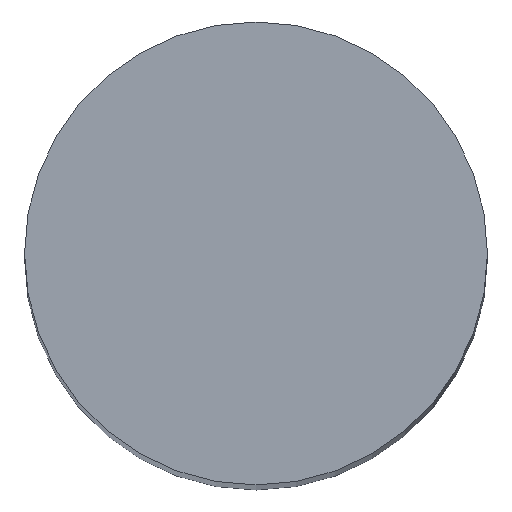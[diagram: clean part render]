
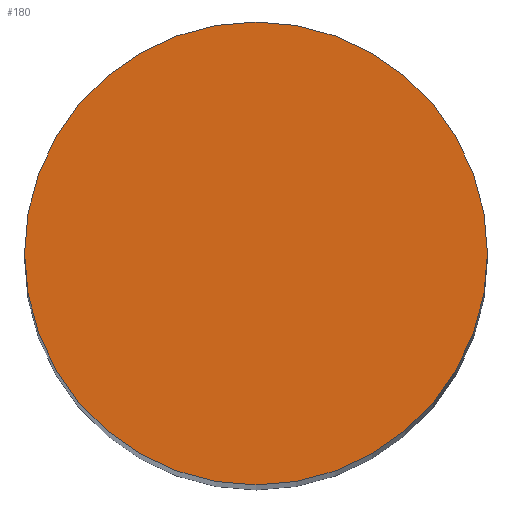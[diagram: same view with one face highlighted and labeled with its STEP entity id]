
A CAD part, top view. The second image highlights one B-rep face of the part: STEP entity #180.
In plain terms, the highlighted planar face has unit normal (0, 0, 1).
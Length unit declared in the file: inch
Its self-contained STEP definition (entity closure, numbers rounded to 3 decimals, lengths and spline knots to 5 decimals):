
#133=CARTESIAN_POINT('',(0.0,-0.1875,2.5));
#134=VERTEX_POINT('',#133);
#142=CARTESIAN_POINT('',(0.0,0.1875,2.5));
#143=VERTEX_POINT('',#142);
#150=CARTESIAN_POINT('',(0.0,0.0,2.5));
#151=DIRECTION('',(0.0,-0.0,-1.0));
#152=DIRECTION('',(0.0,1.0,-0.0));
#153=AXIS2_PLACEMENT_3D('',#150,#151,#152);
#154=CIRCLE('',#153,0.1875);
#155=EDGE_CURVE('no 1299',#143,#134,#154,.T.);
#165=CARTESIAN_POINT('',(0.0,0.0,2.5));
#166=DIRECTION('',(0.0,-0.0,-1.0));
#167=DIRECTION('',(0.0,1.0,-0.0));
#168=AXIS2_PLACEMENT_3D('',#165,#166,#167);
#169=CIRCLE('',#168,0.1875);
#170=EDGE_CURVE('no 1303',#134,#143,#169,.T.);
#171=ORIENTED_EDGE('',*,*,#170,.F.);
#172=ORIENTED_EDGE('',*,*,#155,.F.);
#173=EDGE_LOOP('',(#171,#172));
#174=FACE_OUTER_BOUND('',#173,.T.);
#175=CARTESIAN_POINT('',(0.1875,0.0,2.5));
#176=DIRECTION('',(0.0,0.0,1.0));
#177=DIRECTION('',(0.0,-1.0,0.0));
#178=AXIS2_PLACEMENT_3D('',#175,#176,#177);
#179=PLANE('',#178);
#180=ADVANCED_FACE('no 1393',(#174),#179,.T.);
